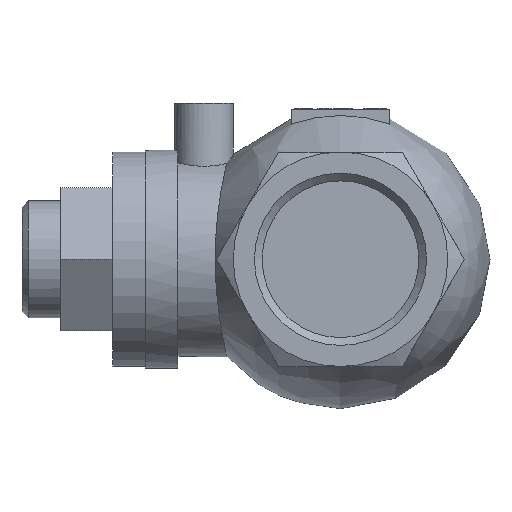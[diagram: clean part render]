
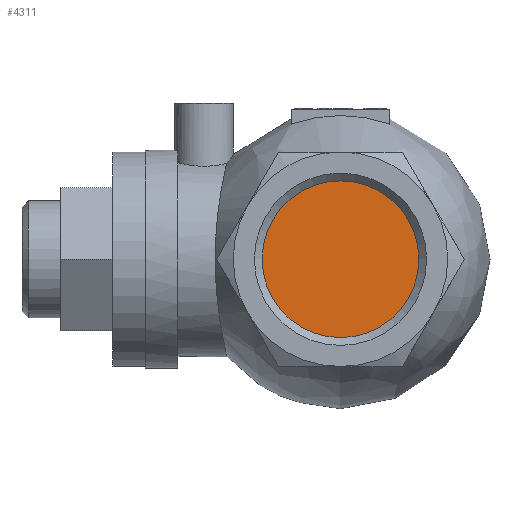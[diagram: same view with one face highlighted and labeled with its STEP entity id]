
A CAD part, left-side view. The second image highlights one B-rep face of the part: STEP entity #4311.
In plain terms, the highlighted planar face has unit normal (-1, 0, 0).
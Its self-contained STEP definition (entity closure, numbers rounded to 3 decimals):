
#412=PLANE('',#4581);
#662=FACE_OUTER_BOUND('',#927,.T.);
#927=EDGE_LOOP('',(#3953,#3954));
#1765=CIRCLE('',#4579,12.059);
#1766=CIRCLE('',#4580,12.059);
#2164=VERTEX_POINT('',#7780);
#2165=VERTEX_POINT('',#7782);
#2769=EDGE_CURVE('',#2165,#2164,#1765,.T.);
#2770=EDGE_CURVE('',#2164,#2165,#1766,.T.);
#3953=ORIENTED_EDGE('',*,*,#2769,.T.);
#3954=ORIENTED_EDGE('',*,*,#2770,.T.);
#4311=ADVANCED_FACE('',(#662),#412,.T.);
#4579=AXIS2_PLACEMENT_3D('',#7783,#5438,#5439);
#4580=AXIS2_PLACEMENT_3D('',#7784,#5440,#5441);
#4581=AXIS2_PLACEMENT_3D('',#7785,#5442,#5443);
#5438=DIRECTION('center_axis',(-1.,0.,0.));
#5439=DIRECTION('ref_axis',(0.,0.,1.));
#5440=DIRECTION('center_axis',(-1.,0.,0.));
#5441=DIRECTION('ref_axis',(0.,0.,1.));
#5442=DIRECTION('center_axis',(-1.,0.,0.));
#5443=DIRECTION('ref_axis',(0.,0.,1.));
#7780=CARTESIAN_POINT('',(-19.,0.,-12.059));
#7782=CARTESIAN_POINT('',(-19.,0.,12.059));
#7783=CARTESIAN_POINT('Origin',(-19.,0.,0.));
#7784=CARTESIAN_POINT('Origin',(-19.,0.,0.));
#7785=CARTESIAN_POINT('Origin',(-19.,0.,0.));
